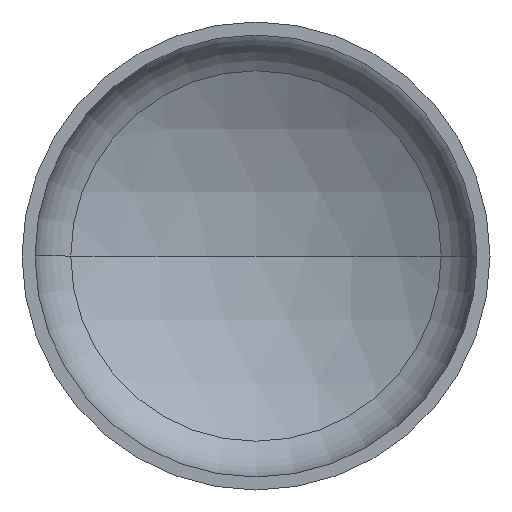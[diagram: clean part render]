
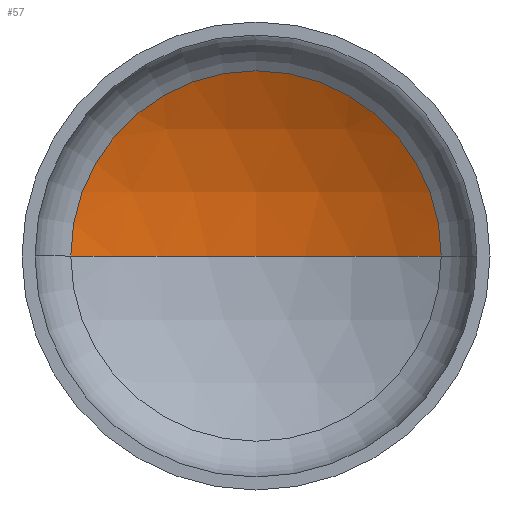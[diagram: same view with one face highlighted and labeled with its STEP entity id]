
A CAD part, front view. The second image highlights one B-rep face of the part: STEP entity #57.
In plain terms, the highlighted spherical face has radius 254 mm.
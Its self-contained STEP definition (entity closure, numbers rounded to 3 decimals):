
#1 = CARTESIAN_POINT ( 'NONE',  ( 0., 73.166, 0. ) ) ;
#9 = ORIENTED_EDGE ( 'NONE', *, *, #241, .T. ) ;
#12 = EDGE_LOOP ( 'NONE', ( #48, #34, #9 ) ) ;
#16 = CARTESIAN_POINT ( 'NONE',  ( 0., -146.117, 0. ) ) ;
#23 = VERTEX_POINT ( 'NONE', #283 ) ;
#34 = ORIENTED_EDGE ( 'NONE', *, *, #247, .T. ) ;
#35 = VERTEX_POINT ( 'NONE', #286 ) ;
#38 = VERTEX_POINT ( 'NONE', #282 ) ;
#48 = ORIENTED_EDGE ( 'NONE', *, *, #249, .F. ) ;
#57 = ADVANCED_FACE ( 'NONE', ( #93 ), #364, .F. ) ;
#93 = FACE_OUTER_BOUND ( 'NONE', #12, .T. ) ;
#132 = AXIS2_PLACEMENT_3D ( 'NONE', #312, #149, #378 ) ;
#136 = AXIS2_PLACEMENT_3D ( 'NONE', #16, #338, #181 ) ;
#140 = AXIS2_PLACEMENT_3D ( 'NONE', #1, #307, #377 ) ;
#149 = DIRECTION ( 'NONE',  ( 0., 0., 1. ) ) ;
#181 = DIRECTION ( 'NONE',  ( -1., 0., 0. ) ) ;
#212 = AXIS2_PLACEMENT_3D ( 'NONE', #353, #359, #228 ) ;
#221 = CIRCLE ( 'NONE', #136, 254. ) ;
#228 = DIRECTION ( 'NONE',  ( -1., 0., 0. ) ) ;
#241 = EDGE_CURVE ( 'NONE', #35, #23, #409, .T. ) ;
#247 = EDGE_CURVE ( 'NONE', #38, #35, #221, .T. ) ;
#249 = EDGE_CURVE ( 'NONE', #38, #23, #402, .T. ) ;
#282 = CARTESIAN_POINT ( 'NONE',  ( 0., 107.883, 0. ) ) ;
#283 = CARTESIAN_POINT ( 'NONE',  ( -128.183, 73.166, 0. ) ) ;
#286 = CARTESIAN_POINT ( 'NONE',  ( 128.183, 73.166, 0. ) ) ;
#307 = DIRECTION ( 'NONE',  ( 0., -1., 0. ) ) ;
#312 = CARTESIAN_POINT ( 'NONE',  ( 0., -146.117, 0. ) ) ;
#338 = DIRECTION ( 'NONE',  ( 0., 0., -1. ) ) ;
#353 = CARTESIAN_POINT ( 'NONE',  ( 0., -146.117, 0. ) ) ;
#359 = DIRECTION ( 'NONE',  ( 0., 0., -1. ) ) ;
#364 = SPHERICAL_SURFACE ( 'NONE', #212, 254. ) ;
#377 = DIRECTION ( 'NONE',  ( 1., 0., 0. ) ) ;
#378 = DIRECTION ( 'NONE',  ( 1., 0., 0. ) ) ;
#402 = CIRCLE ( 'NONE', #132, 254. ) ;
#409 = CIRCLE ( 'NONE', #140, 128.183 ) ;
